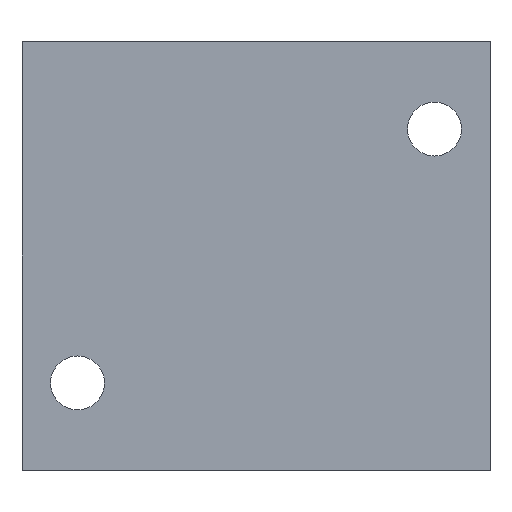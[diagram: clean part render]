
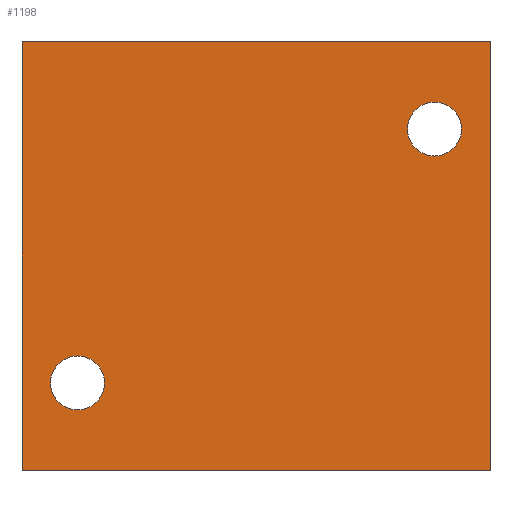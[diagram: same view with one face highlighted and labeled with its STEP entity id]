
A CAD part, front view. The second image highlights one B-rep face of the part: STEP entity #1198.
In plain terms, the highlighted planar face has unit normal (0, -1, 0).
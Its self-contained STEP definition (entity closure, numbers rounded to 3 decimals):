
#11 = DIRECTION ( 'NONE',  ( 0., -1., 0. ) ) ;
#28 = DIRECTION ( 'NONE',  ( 1., 0., 0. ) ) ;
#34 = LINE ( 'NONE', #695, #2007 ) ;
#66 = DIRECTION ( 'NONE',  ( 0., 0., -1. ) ) ;
#92 = CARTESIAN_POINT ( 'NONE',  ( 22.5, -25., 12.6 ) ) ;
#96 = ORIENTED_EDGE ( 'NONE', *, *, #629, .F. ) ;
#99 = CARTESIAN_POINT ( 'NONE',  ( -22.5, -25., -12.6 ) ) ;
#107 = CARTESIAN_POINT ( 'NONE',  ( 29.5, -25., 27. ) ) ;
#172 = EDGE_LOOP ( 'NONE', ( #370, #96, #209, #833 ) ) ;
#185 = ORIENTED_EDGE ( 'NONE', *, *, #1554, .F. ) ;
#209 = ORIENTED_EDGE ( 'NONE', *, *, #1365, .F. ) ;
#221 = VECTOR ( 'NONE', #28, 1000. ) ;
#233 = FACE_OUTER_BOUND ( 'NONE', #172, .T. ) ;
#241 = CARTESIAN_POINT ( 'NONE',  ( -22.5, -25., -16. ) ) ;
#284 = VERTEX_POINT ( 'NONE', #92 ) ;
#322 = AXIS2_PLACEMENT_3D ( 'NONE', #1372, #1688, #748 ) ;
#370 = ORIENTED_EDGE ( 'NONE', *, *, #1823, .T. ) ;
#388 = DIRECTION ( 'NONE',  ( 0., 0., -1. ) ) ;
#408 = EDGE_LOOP ( 'NONE', ( #424, #719 ) ) ;
#420 = DIRECTION ( 'NONE',  ( 0., 0., -1. ) ) ;
#424 = ORIENTED_EDGE ( 'NONE', *, *, #1687, .F. ) ;
#426 = CARTESIAN_POINT ( 'NONE',  ( 29.5, -25., -27. ) ) ;
#461 = ORIENTED_EDGE ( 'NONE', *, *, #1100, .F. ) ;
#503 = CARTESIAN_POINT ( 'NONE',  ( 22.5, -25., 16. ) ) ;
#516 = DIRECTION ( 'NONE',  ( 1., 0., 0. ) ) ;
#573 = DIRECTION ( 'NONE',  ( 0., -1., 0. ) ) ;
#596 = AXIS2_PLACEMENT_3D ( 'NONE', #747, #1352, #420 ) ;
#629 = EDGE_CURVE ( 'NONE', #1529, #690, #34, .T. ) ;
#690 = VERTEX_POINT ( 'NONE', #426 ) ;
#695 = CARTESIAN_POINT ( 'NONE',  ( 29.5, -25., 27. ) ) ;
#719 = ORIENTED_EDGE ( 'NONE', *, *, #1389, .F. ) ;
#720 = DIRECTION ( 'NONE',  ( 0., 0., -1. ) ) ;
#747 = CARTESIAN_POINT ( 'NONE',  ( 22.5, -25., 16. ) ) ;
#748 = DIRECTION ( 'NONE',  ( 0., 0., 1. ) ) ;
#765 = DIRECTION ( 'NONE',  ( 0., -1., 0. ) ) ;
#833 = ORIENTED_EDGE ( 'NONE', *, *, #1354, .T. ) ;
#846 = VERTEX_POINT ( 'NONE', #1435 ) ;
#851 = LINE ( 'NONE', #1483, #221 ) ;
#897 = FACE_BOUND ( 'NONE', #408, .T. ) ;
#922 = VERTEX_POINT ( 'NONE', #1618 ) ;
#1083 = CARTESIAN_POINT ( 'NONE',  ( -22.5, -25., -16. ) ) ;
#1085 = CARTESIAN_POINT ( 'NONE',  ( -29.5, -25., -27. ) ) ;
#1100 = EDGE_CURVE ( 'NONE', #1458, #1158, #1404, .T. ) ;
#1107 = AXIS2_PLACEMENT_3D ( 'NONE', #503, #11, #720 ) ;
#1158 = VERTEX_POINT ( 'NONE', #99 ) ;
#1160 = VERTEX_POINT ( 'NONE', #1085 ) ;
#1198 = ADVANCED_FACE ( 'NONE', ( #897, #233, #2031 ), #1698, .F. ) ;
#1352 = DIRECTION ( 'NONE',  ( 0., -1., 0. ) ) ;
#1354 = EDGE_CURVE ( 'NONE', #922, #1160, #1635, .T. ) ;
#1365 = EDGE_CURVE ( 'NONE', #922, #1529, #851, .T. ) ;
#1371 = CIRCLE ( 'NONE', #596, 3.4 ) ;
#1372 = CARTESIAN_POINT ( 'NONE',  ( -29.5, -25., 27. ) ) ;
#1389 = EDGE_CURVE ( 'NONE', #846, #284, #1371, .T. ) ;
#1404 = CIRCLE ( 'NONE', #1931, 3.4 ) ;
#1435 = CARTESIAN_POINT ( 'NONE',  ( 22.5, -25., 19.4 ) ) ;
#1458 = VERTEX_POINT ( 'NONE', #1827 ) ;
#1483 = CARTESIAN_POINT ( 'NONE',  ( -29.5, -25., 27. ) ) ;
#1529 = VERTEX_POINT ( 'NONE', #107 ) ;
#1554 = EDGE_CURVE ( 'NONE', #1158, #1458, #1899, .T. ) ;
#1602 = CARTESIAN_POINT ( 'NONE',  ( -29.5, -25., 27. ) ) ;
#1618 = CARTESIAN_POINT ( 'NONE',  ( -29.5, -25., 27. ) ) ;
#1628 = VECTOR ( 'NONE', #1786, 1000. ) ;
#1635 = LINE ( 'NONE', #1602, #1628 ) ;
#1659 = EDGE_LOOP ( 'NONE', ( #461, #185 ) ) ;
#1687 = EDGE_CURVE ( 'NONE', #284, #846, #2004, .T. ) ;
#1688 = DIRECTION ( 'NONE',  ( 0., 1., 0. ) ) ;
#1698 = PLANE ( 'NONE',  #322 ) ;
#1731 = AXIS2_PLACEMENT_3D ( 'NONE', #1083, #765, #1888 ) ;
#1786 = DIRECTION ( 'NONE',  ( 0., 0., -1. ) ) ;
#1823 = EDGE_CURVE ( 'NONE', #1160, #690, #1962, .T. ) ;
#1827 = CARTESIAN_POINT ( 'NONE',  ( -22.5, -25., -19.4 ) ) ;
#1888 = DIRECTION ( 'NONE',  ( 0., 0., -1. ) ) ;
#1899 = CIRCLE ( 'NONE', #1731, 3.4 ) ;
#1904 = VECTOR ( 'NONE', #516, 1000. ) ;
#1931 = AXIS2_PLACEMENT_3D ( 'NONE', #241, #573, #66 ) ;
#1962 = LINE ( 'NONE', #1997, #1904 ) ;
#1997 = CARTESIAN_POINT ( 'NONE',  ( -29.5, -25., -27. ) ) ;
#2004 = CIRCLE ( 'NONE', #1107, 3.4 ) ;
#2007 = VECTOR ( 'NONE', #388, 1000. ) ;
#2031 = FACE_BOUND ( 'NONE', #1659, .T. ) ;
